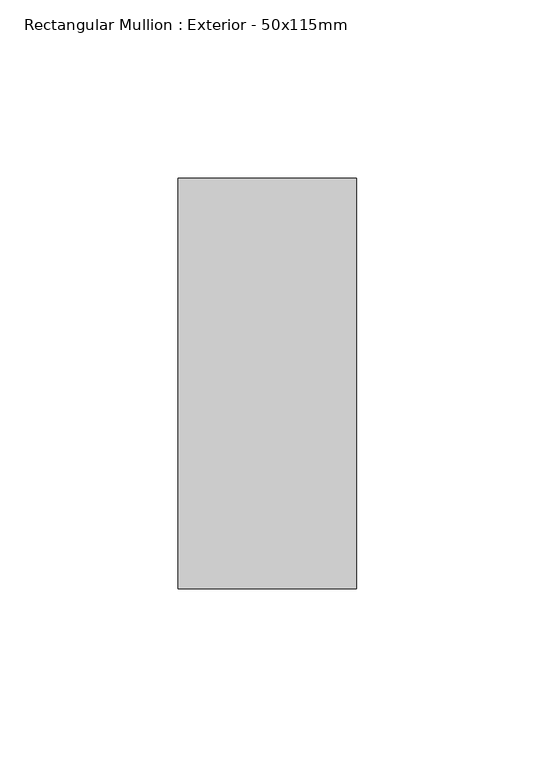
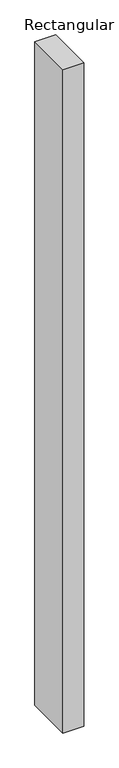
"""IFC4 building model written with IfcOpenShell, lengths in millimetres: member geometry, Rectangular Mullion : Exterior - 50x115mm."""

from ifc_helpers import new_model, si_unit, frame, origin, place, context, project, spatial, polyline, outline, extrude, source, transform, mapped, element, save


def rectangular_mullion_exterior_50x115mm_e2bb2832(model_context):
    return source(origin(), model_context, "Body", "SweptSolid", [
        extrude(outline(polyline([(0.0, 115.0), (0.0, 0.0), (-50.0, 0.0), (-50.0, 115.0), (0.0, 115.0)])), frame((0.0, 0.0, -1665.0), z_axis=(0.0, 0.0, 1.0), x_axis=(1.0, 0.0, 0.0)), (0.0, 0.0, 1.0), 1665.0),
    ])


if __name__ == "__main__":
    model = new_model("IFC4")
    model_context = context("Model", 3, world=origin())
    ifc_project = project(units=[si_unit("LENGTHUNIT", "METRE", prefix="MILLI")], contexts=[model_context])
    site = spatial("IfcSite", under=ifc_project)
    building = spatial("IfcBuilding", under=site)
    placement = place(None, origin())
    rectangular_mullion_exterior_50x115mm_shape = rectangular_mullion_exterior_50x115mm_e2bb2832(model_context)
    element("IfcMember", 1, ObjectType="Rectangular Mullion : Exterior - 50x115mm", at=placement, inside=building, context=model_context, shape_type="MappedRepresentation", body=[
        mapped(rectangular_mullion_exterior_50x115mm_shape, transform((0.0, 0.0, 0.0), x_axis=(1.0, 0.0, 0.0), y_axis=(0.0, 1.0, 0.0), z_axis=(0.0, 0.0, 1.0))),
    ])
    save(model, "model.ifc")
